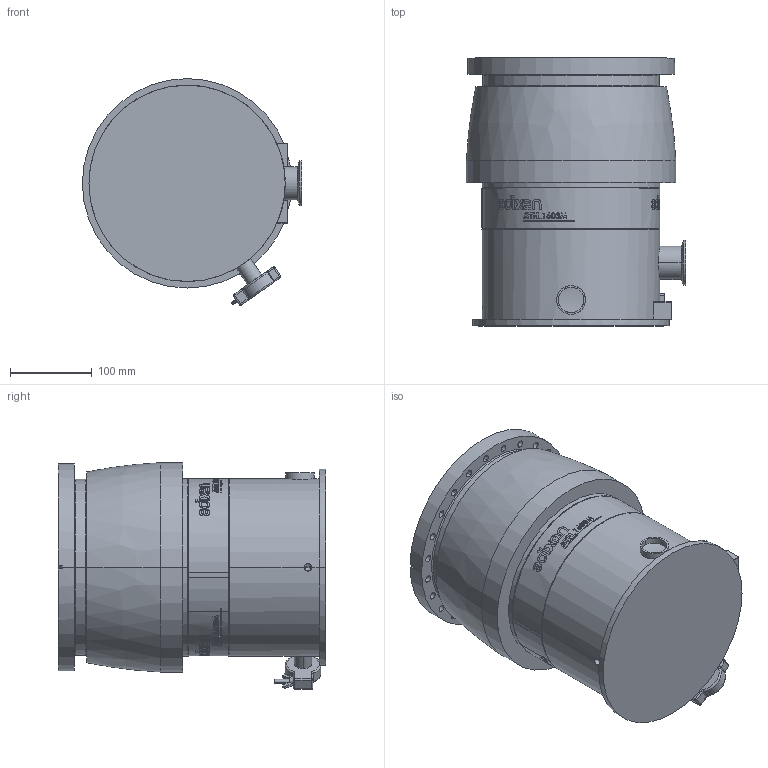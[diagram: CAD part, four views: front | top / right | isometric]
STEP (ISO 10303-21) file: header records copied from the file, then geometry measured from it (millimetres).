
FILE_DESCRIPTION((''),'2;1');
FILE_NAME('ENV-ATH1603M-Y252210A','2011-05-05T',('RCRIADO'),(''),'PRO/ENGINEER BY PARAMETRIC TECHNOLOGY CORPORATION, 2010230','PRO/ENGINEER BY PARAMETRIC TECHNOLOGY CORPORATION, 2010230','');
FILE_SCHEMA(('CONFIG_CONTROL_DESIGN'));
Length unit declared in the file: millimetre
Products named in the file (1): ENV-ATH1603M-Y252210A
Bounding box: 268 x 327.45 x 277.2 mm (x, y, z)
Volume: 13679078.6 mm3; surface area: 428193.5 mm2
Topology: 1 solids, 6 shells, 1123 faces, 2931 edges, 1901 vertices
Faces by surface type: bspline 443, plane 348, cylinder 248, cone 40, torus 36, sphere 8
Entity records: 44460 total; most frequent: CARTESIAN_POINT 19324, ORIENTED_EDGE 5838, DIRECTION 4039, EDGE_CURVE 2919, VERTEX_POINT 1901, AXIS2_PLACEMENT_3D 1351, VECTOR 1337, LINE 1337
